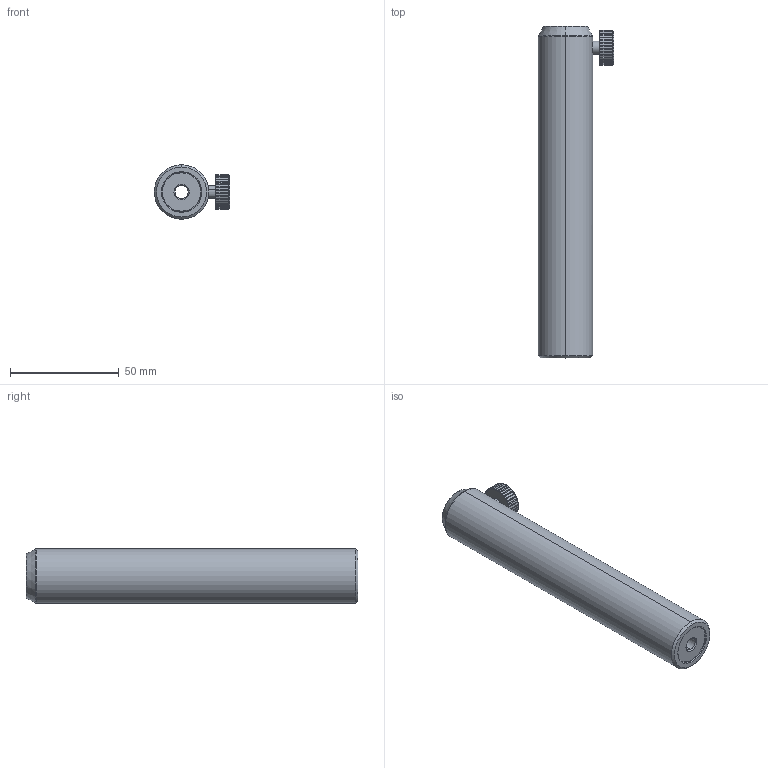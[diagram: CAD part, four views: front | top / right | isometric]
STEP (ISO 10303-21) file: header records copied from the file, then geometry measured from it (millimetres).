
FILE_DESCRIPTION (( 'STEP AP203' ), '1' );
FILE_NAME ('PH-6.STEP', '2016-11-29T08:49:48', ( '' ), ( '' ), 'SwSTEP 2.0', 'SolidWorks 2012', '' );
FILE_SCHEMA (( 'CONFIG_CONTROL_DESIGN' ));
Length unit declared in the file: millimetre
Products named in the file (1): PH-6
Bounding box: 34.59 x 152.4 x 25 mm (x, y, z)
Volume: 55581.5 mm3; surface area: 21748.4 mm2
Topology: 6 solids, 6 shells, 218 faces, 572 edges, 372 vertices
Faces by surface type: plane 113, cylinder 78, cone 18, torus 4, sphere 3, bspline 2
Entity records: 9130 total; most frequent: CARTESIAN_POINT 3733, ORIENTED_EDGE 1132, DIRECTION 1077, EDGE_CURVE 566, AXIS2_PLACEMENT_3D 395, VERTEX_POINT 369, VECTOR 287, LINE 287
